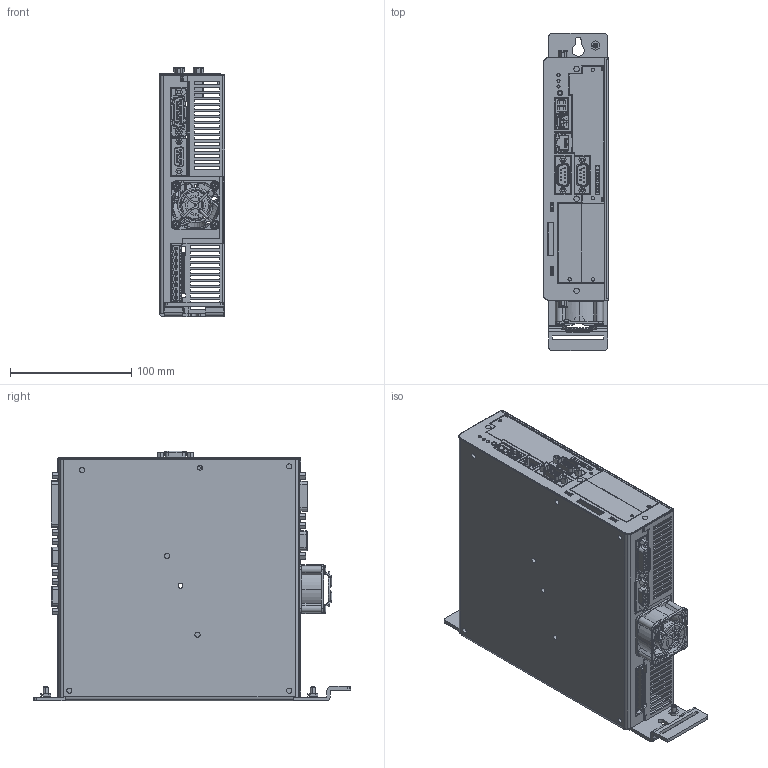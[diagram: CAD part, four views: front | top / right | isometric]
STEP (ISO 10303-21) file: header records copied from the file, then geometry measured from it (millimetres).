
FILE_DESCRIPTION((''),' ');
FILE_NAME('ARS2108-USB_4p0_3D.stp',' ',('Manfred Oelkers'),('Metronix'),' ','ACIS 14.0',' ');
FILE_SCHEMA(('automotive_design'));
Length unit declared in the file: inch
Products named in the file (82): 7; ACIS Solid_533; 12; ACIS Solid_61; ACIS Solid_58; ACIS Solid_15846; ACIS Solid_10523; ACIS Solid_14777; ACIS Solid_14753; ACIS Solid_12901; ACIS Solid_10670; ACIS Solid_14208; ACIS Solid_14182; ACIS Solid_71; ACIS Solid_64; ACIS Solid_8419; ACIS Solid_540; 1; ACIS Solid_40; ACIS Solid_10647; ACIS Solid_536; ACIS Solid_10714; 15; ACIS Solid_538; ACIS Solid_53; ACIS Solid_539; ACIS Solid_13018; 8; 11; ACIS Solid_10363; ACIS Solid_12924; ACIS Solid_73; ACIS Solid_41; 9; ACIS Solid_12878; ACIS Solid_14158; ACIS Solid_10598; ACIS Solid_13587; ACIS Solid_13563; ACIS Solid_62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
Bounding box: 54 x 261 x 205.76 mm (x, y, z)
Volume: 277954.6 mm3; surface area: 299320.4 mm2
Topology: 81 solids, 84 shells, 8388 faces, 21997 edges, 14142 vertices
Faces by surface type: plane 5922, cylinder 1523, cone 375, torus 245, bspline 179, sphere 144
Entity records: 356227 total; most frequent: CARTESIAN_POINT 75003, ORIENTED_EDGE 43816, DIRECTION 41799, EDGE_CURVE 21908, LINE 16485, VECTOR 16485, VERTEX_POINT 14142, AXIS2_PLACEMENT_3D 12657
